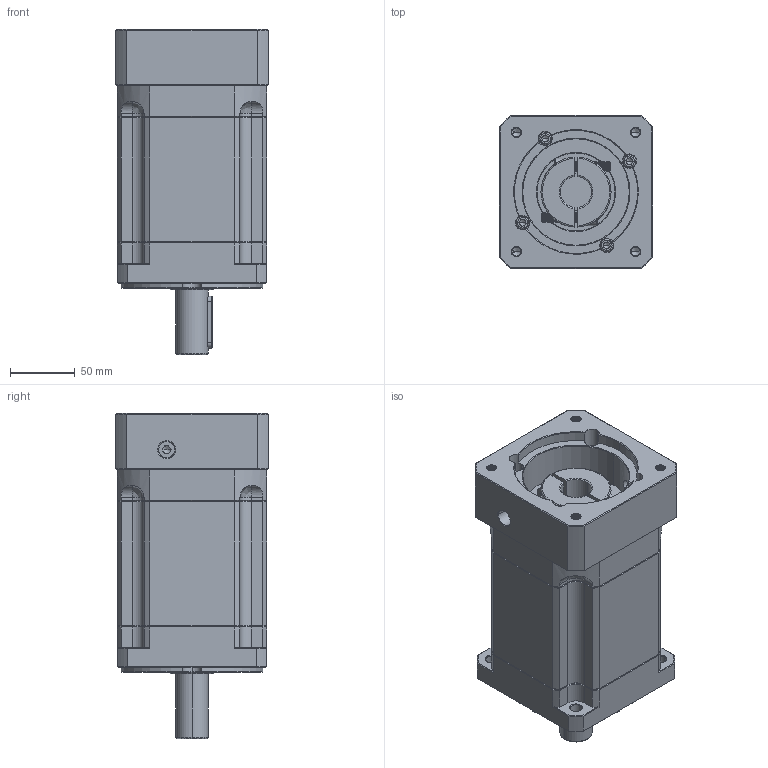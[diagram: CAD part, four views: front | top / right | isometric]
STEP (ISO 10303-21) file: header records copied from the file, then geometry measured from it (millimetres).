
FILE_DESCRIPTION (( 'STEP AP214' ), '1' );
FILE_NAME ('ZB115A-D25-L3-24-95-130-M8.step', '2023-03-02T08:59:10', ( '' ), ( 'Microsoft' ), 'SwSTEP 2.0', 'SolidWorks 2016', '' );
FILE_SCHEMA (( 'AUTOMOTIVE_DESIGN' ));
Length unit declared in the file: millimetre
Products named in the file (1): ZB115A-D25-L3-24-95-130-M8
Bounding box: 118 x 118 x 250.5 mm (x, y, z)
Volume: 2220438.7 mm3; surface area: 193437 mm2
Topology: 6 solids, 6 shells, 2123 faces, 5497 edges, 3465 vertices
Faces by surface type: plane 964, cylinder 444, cone 370, bspline 325, torus 20
Entity records: 113593 total; most frequent: CARTESIAN_POINT 41305, ORIENTED_EDGE 10926, DIRECTION 8970, EDGE_CURVE 5463, VERTEX_POINT 3465, VECTOR 3380, LINE 3380, AXIS2_PLACEMENT_3D 2795
